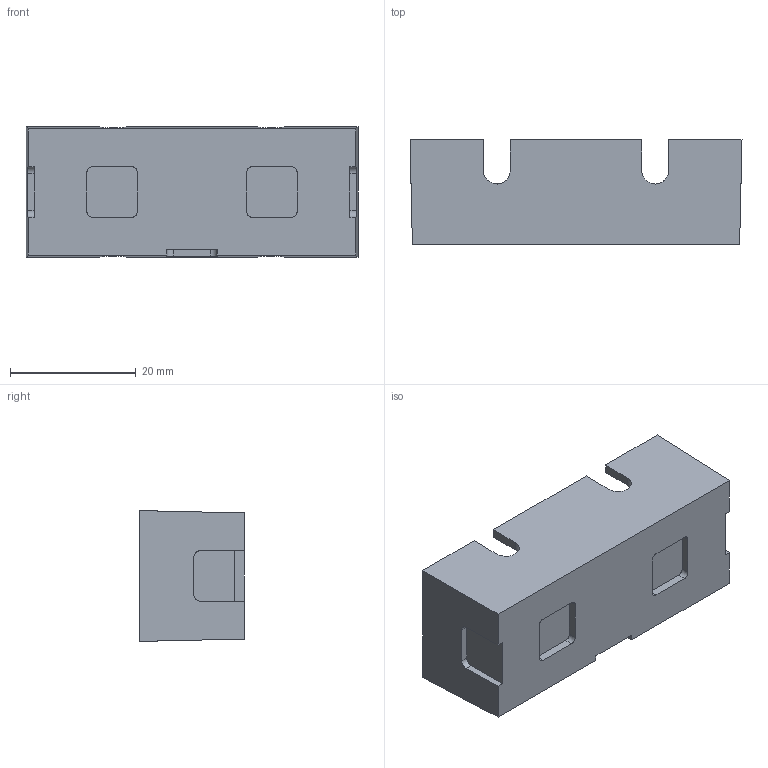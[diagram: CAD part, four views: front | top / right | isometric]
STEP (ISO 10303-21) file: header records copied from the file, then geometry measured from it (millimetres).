
FILE_DESCRIPTION (( 'STEP AP203' ), '1' );
FILE_NAME ('Pizzato_VF_C01.step', '2009-01-30T01:04:33', ( 'Pizzato Elettrica Srl' ), ( '' ), 'SwSTEP 2.0', 'SolidWorks 2008', '' );
FILE_SCHEMA (( 'CONFIG_CONTROL_DESIGN' ));
Length unit declared in the file: millimetre
Products named in the file (1): Pizzato_VF_C01
Bounding box: 52.8 x 16.6 x 20.8 mm (x, y, z)
Volume: 3868.7 mm3; surface area: 6572.8 mm2
Topology: 1 solids, 1 shells, 62 faces, 174 edges, 116 vertices
Faces by surface type: plane 44, cylinder 18
Entity records: 2061 total; most frequent: CARTESIAN_POINT 383, ORIENTED_EDGE 348, DIRECTION 316, EDGE_CURVE 174, LINE 138, VECTOR 138, VERTEX_POINT 116, AXIS2_PLACEMENT_3D 89
